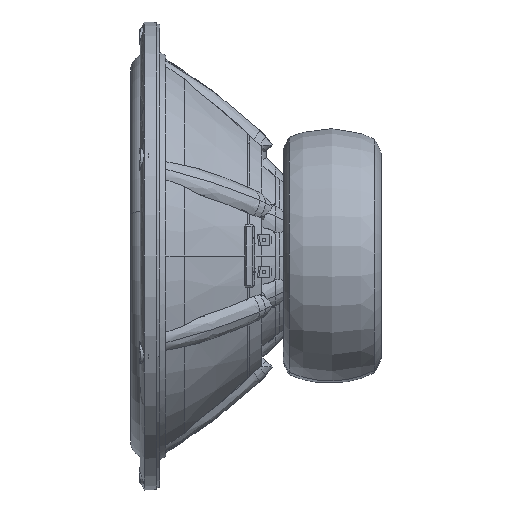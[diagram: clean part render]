
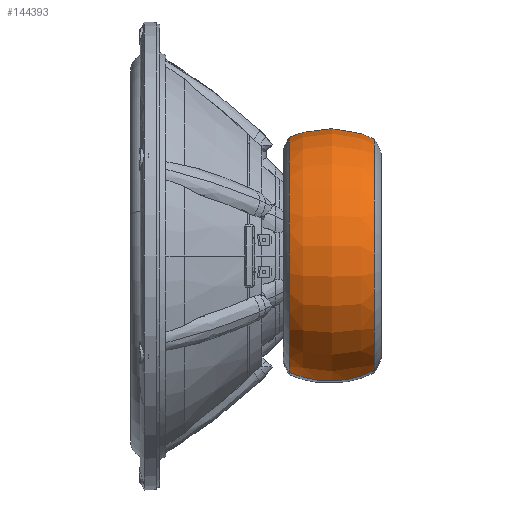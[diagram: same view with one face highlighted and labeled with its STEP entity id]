
A CAD part, left-side view. The second image highlights one B-rep face of the part: STEP entity #144393.
In plain terms, the highlighted toroidal (fillet/blend) face has major radius 15.803 mm and minor radius 55 mm.
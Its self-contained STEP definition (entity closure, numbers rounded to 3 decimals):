
#728 = ORIENTED_EDGE ( 'NONE', *, *, #112195, .F. ) ;
#6010 = CARTESIAN_POINT ( 'NONE',  ( -3.143, -46.577, -15.487 ) ) ;
#8344 = AXIS2_PLACEMENT_3D ( 'NONE', #6010, #31617, #169716 ) ;
#13390 = CARTESIAN_POINT ( 'NONE',  ( 3.143, -46.577, 15.487 ) ) ;
#18743 = DIRECTION ( 'NONE',  ( 0., 1., 0. ) ) ;
#27245 = DIRECTION ( 'NONE',  ( 0., 1., 0. ) ) ;
#27868 = CIRCLE ( 'NONE', #30849, 65. ) ;
#30849 = AXIS2_PLACEMENT_3D ( 'NONE', #167055, #18743, #59742 ) ;
#31617 = DIRECTION ( 'NONE',  ( 0.98, 0., -0.199 ) ) ;
#35452 = DIRECTION ( 'NONE',  ( 0.199, 0., 0.98 ) ) ;
#35644 = TOROIDAL_SURFACE ( 'NONE', #38640, 15.803, 55. ) ;
#38640 = AXIS2_PLACEMENT_3D ( 'NONE', #150891, #27245, #69051 ) ;
#47529 = EDGE_CURVE ( 'NONE', #50309, #138489, #124765, .T. ) ;
#50309 = VERTEX_POINT ( 'NONE', #174365 ) ;
#53466 = DIRECTION ( 'NONE',  ( 0.199, 0., 0.98 ) ) ;
#59438 = ORIENTED_EDGE ( 'NONE', *, *, #169213, .T. ) ;
#59742 = DIRECTION ( 'NONE',  ( 0.199, 0., 0.98 ) ) ;
#69051 = DIRECTION ( 'NONE',  ( 0.199, 0., 0.98 ) ) ;
#69656 = CIRCLE ( 'NONE', #87377, 66. ) ;
#79755 = CARTESIAN_POINT ( 'NONE',  ( 12.927, -71.166, 63.702 ) ) ;
#87377 = AXIS2_PLACEMENT_3D ( 'NONE', #145444, #105437, #35452 ) ;
#105437 = DIRECTION ( 'NONE',  ( 0., 1., 0. ) ) ;
#112195 = EDGE_CURVE ( 'NONE', #138489, #179631, #69656, .T. ) ;
#121368 = ORIENTED_EDGE ( 'NONE', *, *, #47529, .F. ) ;
#124765 = CIRCLE ( 'NONE', #8344, 55. ) ;
#130440 = CARTESIAN_POINT ( 'NONE',  ( 13.126, -24.1, 64.682 ) ) ;
#131081 = CIRCLE ( 'NONE', #145742, 55. ) ;
#134451 = FACE_OUTER_BOUND ( 'NONE', #142372, .T. ) ;
#138489 = VERTEX_POINT ( 'NONE', #147403 ) ;
#139682 = DIRECTION ( 'NONE',  ( -0.98, 0., 0.199 ) ) ;
#142372 = EDGE_LOOP ( 'NONE', ( #121368, #175691, #59438, #728 ) ) ;
#144393 = ADVANCED_FACE ( 'NONE', ( #134451 ), #35644, .T. ) ;
#145444 = CARTESIAN_POINT ( 'NONE',  ( 0., -24.1, 0. ) ) ;
#145742 = AXIS2_PLACEMENT_3D ( 'NONE', #13390, #139682, #53466 ) ;
#146855 = EDGE_CURVE ( 'NONE', #50309, #160114, #27868, .T. ) ;
#147403 = CARTESIAN_POINT ( 'NONE',  ( -13.126, -24.1, -64.682 ) ) ;
#150891 = CARTESIAN_POINT ( 'NONE',  ( 0., -46.577, 0. ) ) ;
#160114 = VERTEX_POINT ( 'NONE', #79755 ) ;
#167055 = CARTESIAN_POINT ( 'NONE',  ( 0., -71.166, 0. ) ) ;
#169213 = EDGE_CURVE ( 'NONE', #160114, #179631, #131081, .T. ) ;
#169716 = DIRECTION ( 'NONE',  ( -0.199, 0., -0.98 ) ) ;
#174365 = CARTESIAN_POINT ( 'NONE',  ( -12.927, -71.166, -63.702 ) ) ;
#175691 = ORIENTED_EDGE ( 'NONE', *, *, #146855, .T. ) ;
#179631 = VERTEX_POINT ( 'NONE', #130440 ) ;
